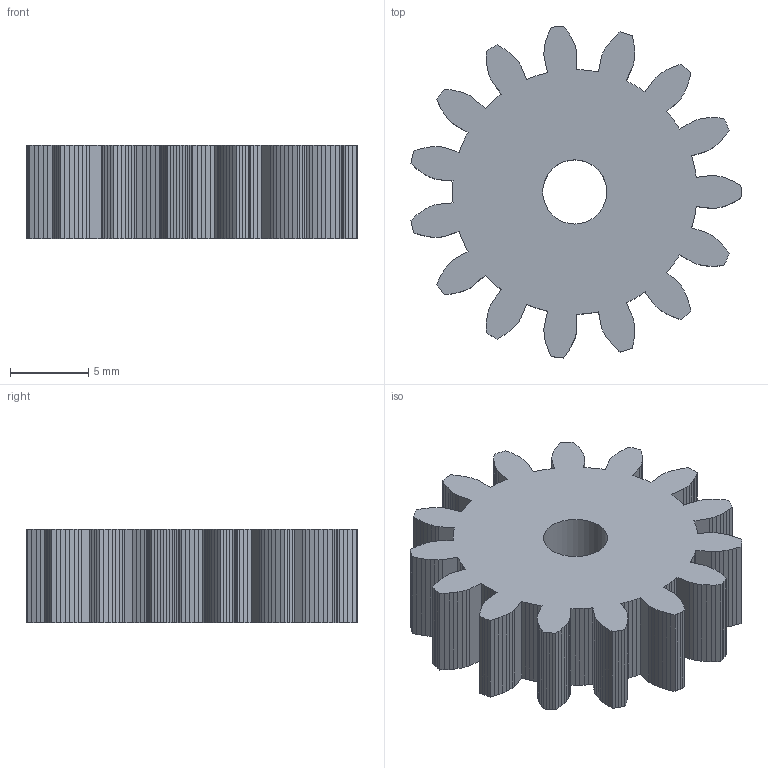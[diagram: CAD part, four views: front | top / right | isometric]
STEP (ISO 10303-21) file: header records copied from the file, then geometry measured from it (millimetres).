
FILE_DESCRIPTION(('Open CASCADE Model'),'2;1');
FILE_NAME('Open CASCADE Shape Model','2026-10-16T00:29:52',('Author'),( 'Open CASCADE'),'Open CASCADE STEP processor 7.9','Open CASCADE 7.9' ,'Unknown');
FILE_SCHEMA(('AUTOMOTIVE_DESIGN { 1 0 10303 214 1 1 1 1 }'));
Length unit declared in the file: millimetre
Products named in the file (1): Open CASCADE STEP translator 7.9 13
Bounding box: 21.1 x 21.2 x 6 mm (x, y, z)
Volume: 1519.2 mm3; surface area: 1323.6 mm2
Topology: 1 solids, 1 shells, 378 faces, 1128 edges, 752 vertices
Faces by surface type: plane 377, cylinder 1
Full cylindrical faces by diameter (mm): 4.1 x1
Entity records: 27112 total; most frequent: CARTESIAN_POINT 4515, DIRECTION 4144, LINE 3380, VECTOR 3380, ORIENTED_EDGE 2256, PCURVE 2256, DEFINITIONAL_REPRESENTATION 2256, EDGE_CURVE 1128
